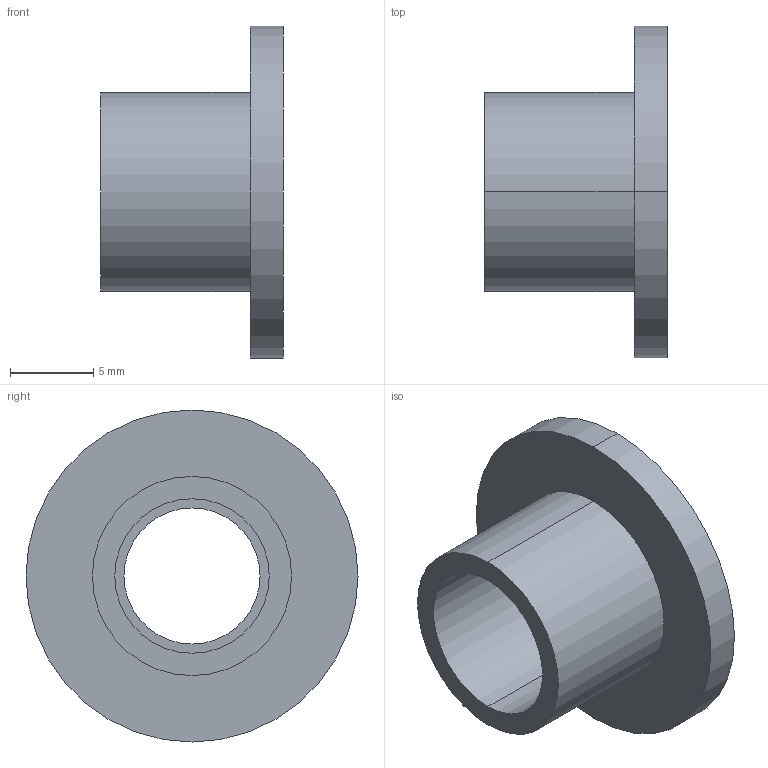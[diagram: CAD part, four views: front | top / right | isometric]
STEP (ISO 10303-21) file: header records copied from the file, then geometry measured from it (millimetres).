
FILE_DESCRIPTION((''),'2;1');
FILE_NAME('ART3TENSIONERPULLEY_V-1','2022-08-24T09:26:41',('domen.bizjak'),('Audax d.o.o.'),'CREO PARAMETRIC BY PTC INC, 2021184','CREO PARAMETRIC BY PTC INC, 2021184','');
FILE_SCHEMA(('AP242_MANAGED_MODEL_BASED_3D_ENGINEERING_MIM_LF { 1 0 10303 442 1 1 4 }'));
Length unit declared in the file: millimetre
Products named in the file (1): ART3TENSIONERPULLEY_V-1
Bounding box: 11 x 20 x 20 mm (x, y, z)
Volume: 936.8 mm3; surface area: 1300.4 mm2
Topology: 1 solids, 1 shells, 12 faces, 27 edges, 22 vertices
Faces by surface type: cylinder 8, plane 4
Entity records: 1131 total; most frequent: COLOUR_RGB 319, DIRECTION 117, CARTESIAN_POINT 86, AXIS2_PLACEMENT_3D 53, ORIENTED_EDGE 48, PRESENTATION_STYLE_ASSIGNMENT 34, STYLED_ITEM 34, PROPERTY_DEFINITION 34
